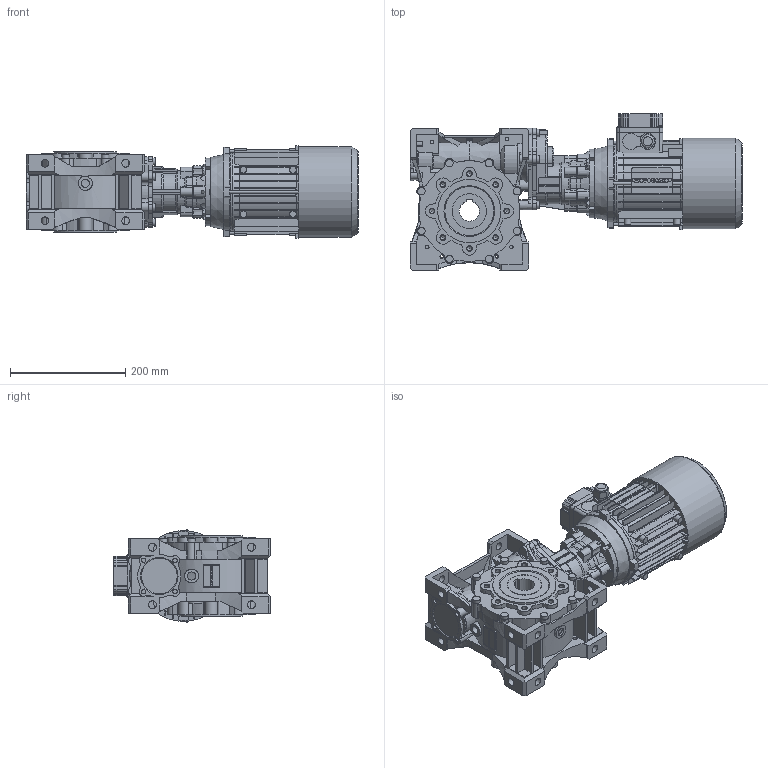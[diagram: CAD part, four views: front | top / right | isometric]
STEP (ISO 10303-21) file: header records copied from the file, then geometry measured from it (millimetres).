
FILE_DESCRIPTION(/* description */ ('STEP AP203'),/* implementation_level */ '2;1');
FILE_NAME(/* name */ 'NMRVP_HW 040-090 31.05 (3.11x10) 120x19 35 NO NO - - NO - - - NO TP 080 80B41(--------)',/* time_stamp */ '2023-06-26T06:35:40+02:00',/* author */ ('License CC BY-ND 4.0'),/* organization */ ('CADENAS'),/* preprocessor_version */ 'ST-DEVELOPER v19.3',/* originating_system */ 'PARTsolutions',/* authorisation */ ' ');
FILE_SCHEMA (('CONFIG_CONTROL_DESIGN'));
Length unit declared in the file: millimetre
Products named in the file (14): NMRVP/HW 040-090 31.05 (3.11x10) 120x19 35 NO NO - - NO - - - NO TP 0
80 80B41(--------); PC.040.27.19.M; ALBERO_TP08019X40NO; PRESSACAVO_2; COPRIMORSETTIERA_TP080A002; COP_TP_80B4_IC411_NO_-_-_-_-_STD; CARCASSA_TP80B4080IC411B1419X40NONO--; FLANGIA_TP080B14-; 6380 B14; HW40; 90-50; W.090.14.19.M-phw; 090-35 (140); W.090.01.M
Assembly tree (13 placements, depth 2):
  NMRVP/HW 040-090 31.05 (3.11x10) 120x19 35 NO NO - - NO - - - NO TP 0
80 80B41(--------)
    PC.040.27.19.M
    ALBERO_TP08019X40NO
    PRESSACAVO_2
    COPRIMORSETTIERA_TP080A002
    COP_TP_80B4_IC411_NO_-_-_-_-_STD
    CARCASSA_TP80B4080IC411B1419X40NONO--
    FLANGIA_TP080B14-
    6380 B14
    HW40
    90-50
    W.090.14.19.M-phw
    090-35 (140)
    W.090.01.M
Bounding box: 576.5 x 272.5 x 160.29 mm (x, y, z)
Volume: 9600203.6 mm3; surface area: 919596.9 mm2
Topology: 13 solids, 15 shells, 3568 faces, 9891 edges, 6561 vertices
Faces by surface type: plane 1875, cylinder 1418, cone 262, torus 9, sphere 4
Full cylindrical faces by diameter (mm): 1.8 x1, 2.02 x1, 4.917 x1, 5 x8, 6 x20, 6.4 x1, 7.45 x12, 8 x4, 8.376 x16, 11.5 x4, 13 x20, 13.4 x14, 14 x4, 18 x1, 19 x1, 20 x3, 22 x1, 24 x2, 26 x1, 31 x1, 32 x1, 39 x1, 40 x1, 45 x1, 50 x3, 58 x1, 60 x1, 68 x2, 75 x2, 80 x1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
Entity records: 127757 total; most frequent: CARTESIAN_POINT 21790, DIRECTION 19645, ORIENTED_EDGE 19236, EDGE_CURVE 9618, AXIS2_PLACEMENT_3D 7047, VERTEX_POINT 6507, LINE 5551, VECTOR 5551
